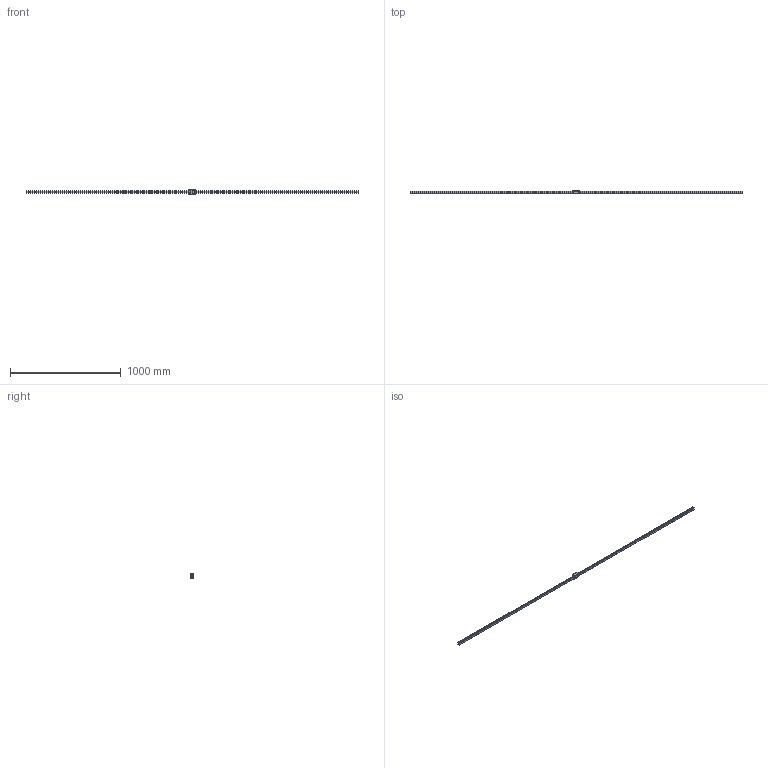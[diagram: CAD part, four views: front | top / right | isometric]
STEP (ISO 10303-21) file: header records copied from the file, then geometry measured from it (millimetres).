
FILE_DESCRIPTION(/* description */ ('STEP AP214'),/* implementation_level */ '2;1');
FILE_NAME(/* name */ 'HDR20SR1SS-3000L_G30_0_PB107_1471-35_0_0_01',/* time_stamp */ '2023-06-30T12:24:20+02:00',/* author */ ('License CC BY-ND 4.0'),/* organization */ ('CADENAS'),/* preprocessor_version */ 'ST-DEVELOPER v19.3',/* originating_system */ 'PARTsolutions',/* authorisation */ ' ');
FILE_SCHEMA (('AUTOMOTIVE_DESIGN {1 0 10303 214 3 1 1}'));
Length unit declared in the file: millimetre
Products named in the file (4): HDR20SR1SS-3000L_G30_0_PB107_1471-35_0_0_01; hsr_ftht_PB107_grease_nipple_joint; HDR20SRSSPB1071 Slider; HDR20SR1300030 Rail
Assembly tree (3 placements, depth 2):
  HDR20SR1SS-3000L_G30_0_PB107_1471-35_0_0_01
    hsr_ftht_PB107_grease_nipple_joint
    HDR20SRSSPB1071 Slider
    HDR20SR1300030 Rail
Bounding box: 3000 x 30 x 44 mm (x, y, z)
Volume: 1009192.4 mm3; surface area: 291016.2 mm2
Topology: 3 solids, 3 shells, 334 faces, 799 edges, 528 vertices
Faces by surface type: cylinder 166, plane 161, cone 6, sphere 1
Full cylindrical faces by diameter (mm): 2.9 x4, 3 x1, 3.5 x3, 4.134 x3, 4.5 x1, 6 x50, 9.5 x50
Entity records: 9459 total; most frequent: DIRECTION 1686, CARTESIAN_POINT 1539, ORIENTED_EDGE 1350, EDGE_CURVE 675, AXIS2_PLACEMENT_3D 673, FACE_BOUND 613, EDGE_LOOP 610, VERTEX_POINT 526
